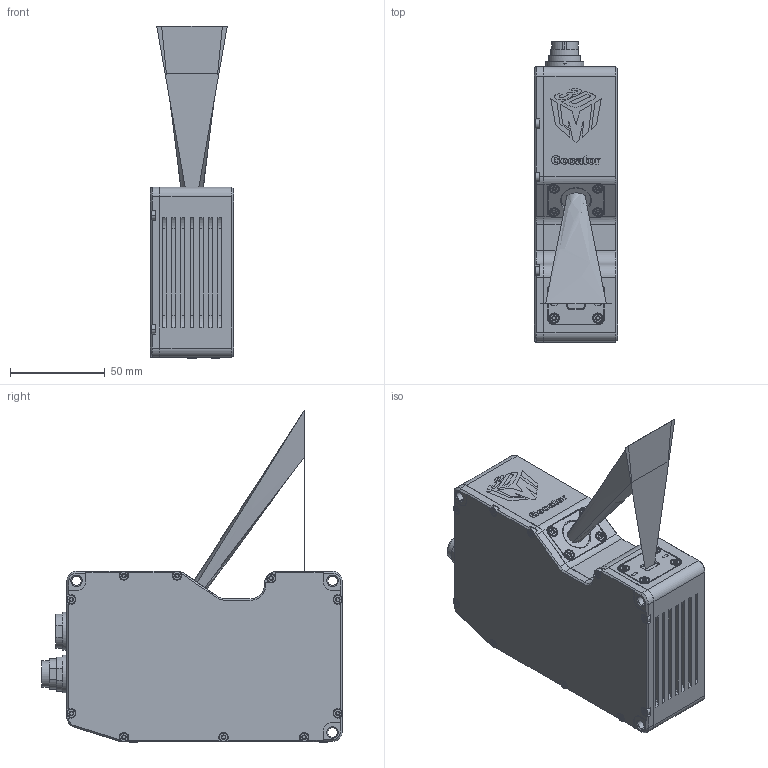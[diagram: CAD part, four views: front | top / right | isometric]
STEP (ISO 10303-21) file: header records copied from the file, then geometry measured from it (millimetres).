
FILE_DESCRIPTION (( 'STEP AP214' ), '1' );
FILE_NAME ('25020.01.02_CAD_Gocator-2420_312420A-X-B-01-S.STEP', '2019-02-22T21:01:18', ( '' ), ( '' ), 'SwSTEP 2.0', 'SolidWorks 2018', '' );
FILE_SCHEMA (( 'AUTOMOTIVE_DESIGN' ));
Length unit declared in the file: millimetre
Products named in the file (1): 25020.01.02_CAD_Gocator-2420_312420A-X-B-01-S
Bounding box: 44 x 158.39 x 175 mm (x, y, z)
Surface area: 64564.2 mm2 (no closed solid volume)
Topology: 0 solids, 4 shells, 1858 faces, 4762 edges, 3049 vertices
Faces by surface type: plane 683, cylinder 636, cone 261, bspline 233, torus 27, sphere 18
Entity records: 84056 total; most frequent: CARTESIAN_POINT 20079, ORIENTED_EDGE 9406, DIRECTION 8440, EDGE_CURVE 4707, VERTEX_POINT 3021, AXIS2_PLACEMENT_3D 2993, VECTOR 2454, LINE 2454
